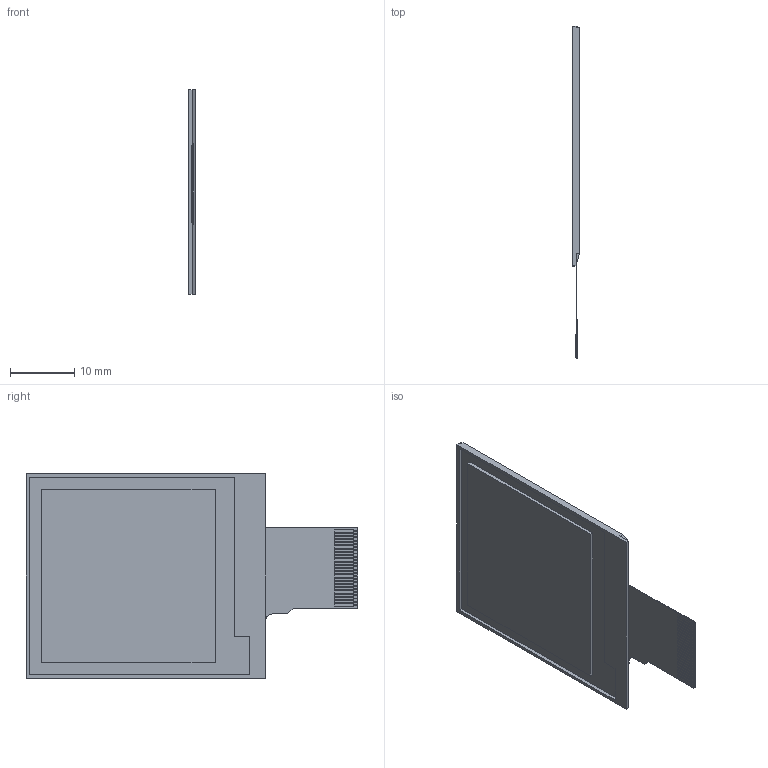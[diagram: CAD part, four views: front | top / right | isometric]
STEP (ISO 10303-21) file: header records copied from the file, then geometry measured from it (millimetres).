
FILE_DESCRIPTION (( 'STEP AP214' ), '1' );
FILE_NAME ('CFAP200200A5-0154.STEP', '2023-02-15T22:58:32', ( '' ), ( '' ), 'SwSTEP 2.0', 'SolidWorks 2021', '' );
FILE_SCHEMA (( 'AUTOMOTIVE_DESIGN' ));
Length unit declared in the file: millimetre
Products named in the file (1): CFAP200200A5-0154
Bounding box: 1.05 x 51.62 x 31.8 mm (x, y, z)
Volume: 1113.6 mm3; surface area: 4876.2 mm2
Topology: 6 solids, 6 shells, 267 faces, 691 edges, 462 vertices
Faces by surface type: plane 266, cylinder 1
Entity records: 10621 total; most frequent: CARTESIAN_POINT 1421, ORIENTED_EDGE 1382, DIRECTION 1229, EDGE_CURVE 691, LINE 689, VECTOR 689, VERTEX_POINT 462, EDGE_LOOP 293
